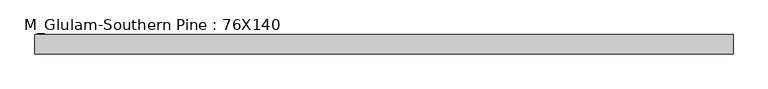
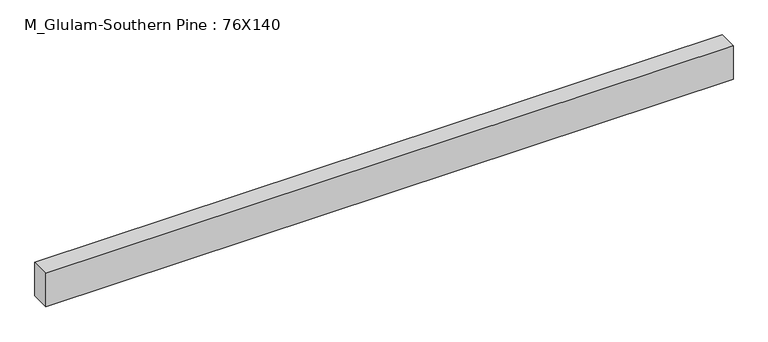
"""IFC4 building model written with IfcOpenShell, lengths in millimetres: beam geometry, M_Glulam-Southern Pine : 76X140."""

from ifc_helpers import new_model, si_unit, frame, origin, place, context, project, spatial, polyline, outline, extrude, source, transform, mapped, element, save


def m_glulam_southern_pine_76x140_5a5c9036(model_context):
    return source(origin(), model_context, "Body", "SweptSolid", [
        extrude(outline(polyline([(1365.0, 38.0), (1365.0, -38.0), (-1365.0, -38.0), (-1365.0, 38.0), (1365.0, 38.0)])), frame((0.0, 0.0, -70.0), z_axis=(0.0, 0.0, 1.0), x_axis=(1.0, 0.0, 0.0)), (0.0, 0.0, 1.0), 140.0),
    ])


if __name__ == "__main__":
    model = new_model("IFC4")
    model_context = context("Model", 3, world=origin())
    ifc_project = project(units=[si_unit("LENGTHUNIT", "METRE", prefix="MILLI")], contexts=[model_context])
    site = spatial("IfcSite", under=ifc_project)
    building = spatial("IfcBuilding", under=site)
    placement = place(None, origin())
    m_glulam_southern_pine_76x140_shape = m_glulam_southern_pine_76x140_5a5c9036(model_context)
    element("IfcBeam", 1, ObjectType="M_Glulam-Southern Pine : 76X140", at=placement, inside=building, context=model_context, shape_type="MappedRepresentation", body=[
        mapped(m_glulam_southern_pine_76x140_shape, transform((0.0, 0.0, 0.0), x_axis=(1.0, 0.0, 0.0), y_axis=(0.0, 1.0, 0.0), z_axis=(0.0, 0.0, 1.0))),
    ])
    save(model, "model.ifc")
